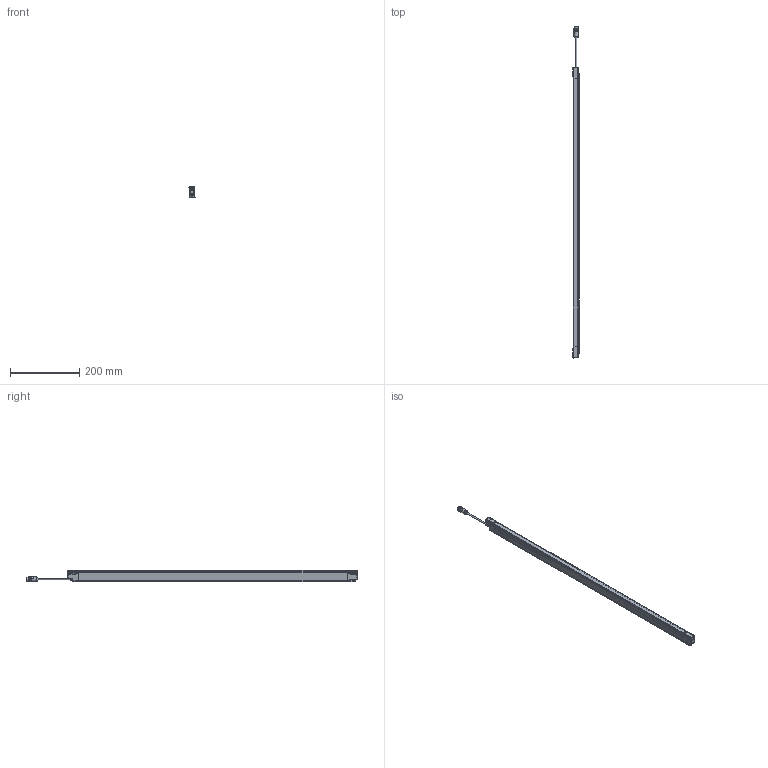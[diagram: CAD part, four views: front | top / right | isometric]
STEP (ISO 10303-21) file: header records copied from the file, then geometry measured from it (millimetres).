
FILE_DESCRIPTION(/* description */ (''),/* implementation_level */ '2;1');
FILE_NAME(/* name */ 'DSD-0643.stp',/* time_stamp */ '2015-02-23T17:39:59+01:00',/* author */ (''),/* organization */ (''),/* preprocessor_version */ 'ST-DEVELOPER v11',/* originating_system */ 'SIEMENS PLM Software NX 7.5',/* authorisation */ '');
FILE_SCHEMA (('AUTOMOTIVE_DESIGN { 1 0 10303 214 1 1 1 1 }'));
Length unit declared in the file: millimetre
Products named in the file (1): AP008125_00
Bounding box: 17.36 x 960.24 x 33.46 mm (x, y, z)
Surface area: 196710.3 mm2 (no closed solid volume)
Topology: 0 solids, 44 shells, 4228 faces, 10911 edges, 6629 vertices
Faces by surface type: plane 1725, cylinder 1317, bspline 479, torus 260, cone 243, sphere 184, extrusion 20
Full cylindrical faces by diameter (mm): 0.7 x5, 0.8 x26, 1 x24, 1.2 x2, 1.6 x8, 1.7 x2, 1.75 x2, 1.886 x2, 1.9 x6, 2.6 x6, 4 x4, 6.8 x2, 7.2 x1, 7.4 x2, 8.3 x1, 9.4 x1, 9.5 x1, 10.4 x1, 12 x1, 13 x1, 13.5 x1, 14.5 x2
Entity records: 159347 total; most frequent: CARTESIAN_POINT 55001, DIRECTION 20664, ORIENTED_EDGE 20548, EDGE_CURVE 10497, AXIS2_PLACEMENT_3D 7483, VERTEX_POINT 6548, VECTOR 5698, LINE 5678
